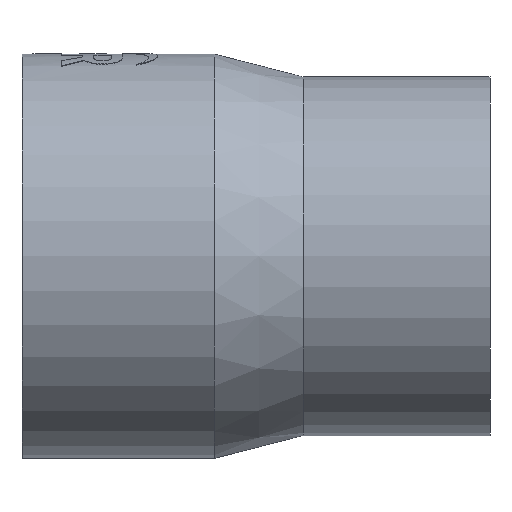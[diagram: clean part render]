
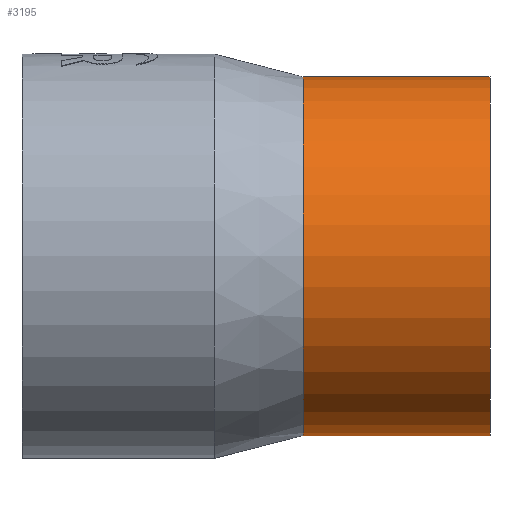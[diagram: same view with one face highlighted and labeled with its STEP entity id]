
A CAD part, front view. The second image highlights one B-rep face of the part: STEP entity #3195.
In plain terms, the highlighted cylindrical face has radius 177.5 mm (diameter 355 mm), a partial arc.
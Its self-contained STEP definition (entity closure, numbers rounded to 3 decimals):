
#178 = CIRCLE ( 'NONE', #3673, 177.5 ) ;
#253 = ORIENTED_EDGE ( 'NONE', *, *, #3106, .F. ) ;
#362 = EDGE_CURVE ( 'NONE', #2653, #3091, #3686, .T. ) ;
#516 = CARTESIAN_POINT ( 'NONE',  ( 463., 0., 177.5 ) ) ;
#600 = EDGE_LOOP ( 'NONE', ( #676, #1112, #2423, #253 ) ) ;
#676 = ORIENTED_EDGE ( 'NONE', *, *, #1645, .F. ) ;
#703 = CARTESIAN_POINT ( 'NONE',  ( -0.3, 0., -177.5 ) ) ;
#711 = CARTESIAN_POINT ( 'NONE',  ( 278., 0., -177.5 ) ) ;
#1112 = ORIENTED_EDGE ( 'NONE', *, *, #3123, .T. ) ;
#1152 = VERTEX_POINT ( 'NONE', #1509 ) ;
#1300 = DIRECTION ( 'NONE',  ( 0., 0., 1. ) ) ;
#1365 = CIRCLE ( 'NONE', #2732, 177.5 ) ;
#1456 = DIRECTION ( 'NONE',  ( -1., 0., 0. ) ) ;
#1489 = CARTESIAN_POINT ( 'NONE',  ( -0.3, 0., 0. ) ) ;
#1509 = CARTESIAN_POINT ( 'NONE',  ( 463., 0., -177.5 ) ) ;
#1645 = EDGE_CURVE ( 'NONE', #1152, #2583, #1956, .T. ) ;
#1767 = VECTOR ( 'NONE', #3190, 1000. ) ;
#1956 = LINE ( 'NONE', #703, #1767 ) ;
#2323 = DIRECTION ( 'NONE',  ( 0., 0., 1. ) ) ;
#2332 = DIRECTION ( 'NONE',  ( -1., 0., 0. ) ) ;
#2347 = CARTESIAN_POINT ( 'NONE',  ( 463., 0., 0. ) ) ;
#2423 = ORIENTED_EDGE ( 'NONE', *, *, #362, .T. ) ;
#2438 = CYLINDRICAL_SURFACE ( 'NONE', #3740, 177.5 ) ;
#2527 = VECTOR ( 'NONE', #2913, 1000. ) ;
#2579 = DIRECTION ( 'NONE',  ( 0., 0., 1. ) ) ;
#2583 = VERTEX_POINT ( 'NONE', #711 ) ;
#2587 = DIRECTION ( 'NONE',  ( -1., 0., 0. ) ) ;
#2594 = CARTESIAN_POINT ( 'NONE',  ( 278., 0., 0. ) ) ;
#2653 = VERTEX_POINT ( 'NONE', #516 ) ;
#2732 = AXIS2_PLACEMENT_3D ( 'NONE', #2347, #2332, #2323 ) ;
#2778 = CARTESIAN_POINT ( 'NONE',  ( -0.3, 0., 177.5 ) ) ;
#2874 = FACE_OUTER_BOUND ( 'NONE', #600, .T. ) ;
#2913 = DIRECTION ( 'NONE',  ( -1., 0., 0. ) ) ;
#3091 = VERTEX_POINT ( 'NONE', #3478 ) ;
#3106 = EDGE_CURVE ( 'NONE', #2583, #3091, #178, .T. ) ;
#3123 = EDGE_CURVE ( 'NONE', #1152, #2653, #1365, .T. ) ;
#3190 = DIRECTION ( 'NONE',  ( -1., 0., 0. ) ) ;
#3195 = ADVANCED_FACE ( 'NONE', ( #2874 ), #2438, .T. ) ;
#3478 = CARTESIAN_POINT ( 'NONE',  ( 278., 0., 177.5 ) ) ;
#3673 = AXIS2_PLACEMENT_3D ( 'NONE', #2594, #2587, #2579 ) ;
#3686 = LINE ( 'NONE', #2778, #2527 ) ;
#3740 = AXIS2_PLACEMENT_3D ( 'NONE', #1489, #1456, #1300 ) ;
